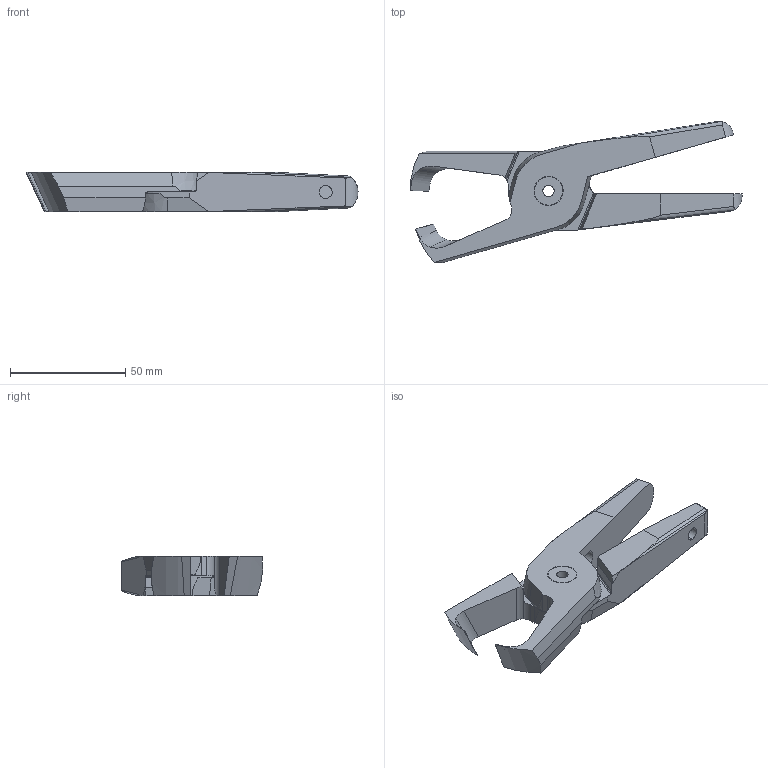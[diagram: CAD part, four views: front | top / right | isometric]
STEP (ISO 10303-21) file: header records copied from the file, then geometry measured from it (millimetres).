
FILE_DESCRIPTION((''),'2;1');
FILE_NAME('GPT-30-AELA65.stp','2006-07-11T12:46:12',(''),(''),'Mechanical Desktop 2005','Mechanical Desktop 2005',', , ');
FILE_SCHEMA(('CONFIG_CONTROL_DESIGN'));
Length unit declared in the file: inch
Products named in the file (4): 30AELA56; 30AELA65O; 30AELA65S; 30PRIVIT
Assembly tree (3 placements, depth 2):
  30AELA56
    30AELA65O
    30AELA65S
    30PRIVIT
Bounding box: 143.88 x 61.17 x 16.99 mm (x, y, z)
Volume: 49875.7 mm3; surface area: 19369.9 mm2
Topology: 3 solids, 3 shells, 127 faces, 345 edges, 223 vertices
Faces by surface type: plane 57, cylinder 54, cone 16
Entity records: 4205 total; most frequent: CARTESIAN_POINT 819, DIRECTION 694, ORIENTED_EDGE 682, EDGE_CURVE 341, AXIS2_PLACEMENT_3D 250, VERTEX_POINT 223, VECTOR 194, LINE 194
